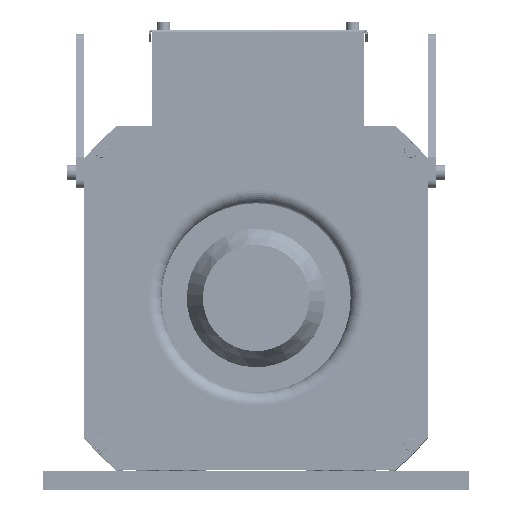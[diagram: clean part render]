
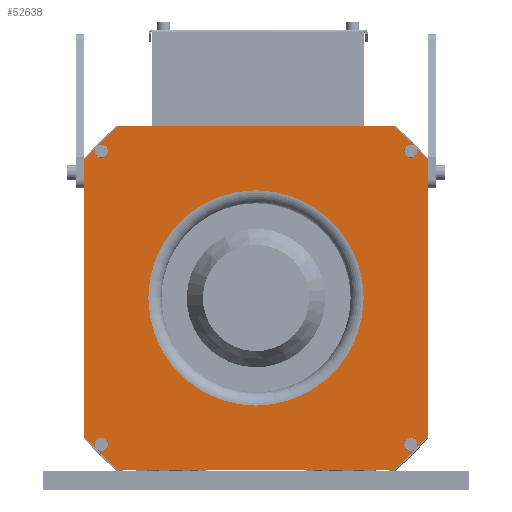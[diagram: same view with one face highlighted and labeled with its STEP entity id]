
A CAD part, top view. The second image highlights one B-rep face of the part: STEP entity #52638.
In plain terms, the highlighted planar face has unit normal (0, 0, 1) as drawn and (-1, 0, 0) by its records, which use the part's own axes.
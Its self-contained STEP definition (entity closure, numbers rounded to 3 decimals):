
#2094 = CARTESIAN_POINT ( 'NONE',  ( 0., 112., -90. ) ) ;
#2127 = DIRECTION ( 'NONE',  ( 0., 0., -1. ) ) ;
#2452 = CARTESIAN_POINT ( 'NONE',  ( 0., 155., -112. ) ) ;
#2809 = FACE_BOUND ( 'NONE', #34604, .T. ) ;
#2938 = VERTEX_POINT ( 'NONE', #111156 ) ;
#3933 = ORIENTED_EDGE ( 'NONE', *, *, #67642, .F. ) ;
#9075 = LINE ( 'NONE', #103975, #99518 ) ;
#9110 = LINE ( 'NONE', #58994, #57012 ) ;
#9602 = VERTEX_POINT ( 'NONE', #56330 ) ;
#11826 = EDGE_CURVE ( 'NONE', #40813, #26604, #18975, .T. ) ;
#12693 = LINE ( 'NONE', #2452, #102549 ) ;
#16789 = AXIS2_PLACEMENT_3D ( 'NONE', #63078, #20753, #51483 ) ;
#18975 = LINE ( 'NONE', #92069, #110919 ) ;
#20753 = DIRECTION ( 'NONE',  ( -1., 0., 0. ) ) ;
#23273 = EDGE_CURVE ( 'NONE', #76760, #40813, #9110, .T. ) ;
#23344 = CIRCLE ( 'NONE', #16789, 70. ) ;
#25594 = VERTEX_POINT ( 'NONE', #48344 ) ;
#26230 = ORIENTED_EDGE ( 'NONE', *, *, #124694, .F. ) ;
#26604 = VERTEX_POINT ( 'NONE', #118594 ) ;
#27553 = CARTESIAN_POINT ( 'NONE',  ( 0., -112., -90. ) ) ;
#30322 = AXIS2_PLACEMENT_3D ( 'NONE', #40223, #94806, #133828 ) ;
#31872 = DIRECTION ( 'NONE',  ( 0., 1., 0. ) ) ;
#34260 = DIRECTION ( 'NONE',  ( 1., 0., 0. ) ) ;
#34604 = EDGE_LOOP ( 'NONE', ( #130675, #117939 ) ) ;
#37905 = VERTEX_POINT ( 'NONE', #128066 ) ;
#39441 = VERTEX_POINT ( 'NONE', #50109 ) ;
#40143 = DIRECTION ( 'NONE',  ( 0., -0.707, 0.707 ) ) ;
#40223 = CARTESIAN_POINT ( 'NONE',  ( 0., 0., 0. ) ) ;
#40813 = VERTEX_POINT ( 'NONE', #90345 ) ;
#45825 = PLANE ( 'NONE',  #91076 ) ;
#47262 = CARTESIAN_POINT ( 'NONE',  ( 0., -112., 90. ) ) ;
#48344 = CARTESIAN_POINT ( 'NONE',  ( 0., -112., 90. ) ) ;
#49422 = DIRECTION ( 'NONE',  ( 0., 0., 1. ) ) ;
#50109 = CARTESIAN_POINT ( 'NONE',  ( 0., 0., 70. ) ) ;
#50113 = EDGE_LOOP ( 'NONE', ( #26230, #118303, #82341, #3933, #126524, #69642, #82223, #126089 ) ) ;
#50135 = VECTOR ( 'NONE', #52491, 1000. ) ;
#51483 = DIRECTION ( 'NONE',  ( 0., 0., 1. ) ) ;
#52491 = DIRECTION ( 'NONE',  ( 0., -1., 0. ) ) ;
#52638 = ADVANCED_FACE ( 'NONE', ( #2809, #118914 ), #45825, .F. ) ;
#54351 = VECTOR ( 'NONE', #95632, 1000. ) ;
#54720 = EDGE_CURVE ( 'NONE', #80484, #105975, #72480, .T. ) ;
#55983 = EDGE_CURVE ( 'NONE', #37905, #39441, #113174, .T. ) ;
#56330 = CARTESIAN_POINT ( 'NONE',  ( 0., -90., 112. ) ) ;
#57012 = VECTOR ( 'NONE', #49422, 1000. ) ;
#57498 = LINE ( 'NONE', #47262, #113359 ) ;
#57761 = LINE ( 'NONE', #80972, #59685 ) ;
#58043 = EDGE_CURVE ( 'NONE', #105975, #2938, #12693, .T. ) ;
#58994 = CARTESIAN_POINT ( 'NONE',  ( 0., 112., 0. ) ) ;
#59685 = VECTOR ( 'NONE', #99448, 1000. ) ;
#63078 = CARTESIAN_POINT ( 'NONE',  ( 0., 0., 0. ) ) ;
#65573 = CARTESIAN_POINT ( 'NONE',  ( 0., -90., -112. ) ) ;
#67642 = EDGE_CURVE ( 'NONE', #2938, #76760, #9075, .T. ) ;
#69642 = ORIENTED_EDGE ( 'NONE', *, *, #54720, .F. ) ;
#72480 = LINE ( 'NONE', #65573, #54351 ) ;
#76760 = VERTEX_POINT ( 'NONE', #2094 ) ;
#80484 = VERTEX_POINT ( 'NONE', #27553 ) ;
#80972 = CARTESIAN_POINT ( 'NONE',  ( 0., -112., 0. ) ) ;
#82223 = ORIENTED_EDGE ( 'NONE', *, *, #131339, .F. ) ;
#82341 = ORIENTED_EDGE ( 'NONE', *, *, #23273, .F. ) ;
#83921 = CARTESIAN_POINT ( 'NONE',  ( 0., 155., 112. ) ) ;
#85979 = EDGE_CURVE ( 'NONE', #39441, #37905, #23344, .T. ) ;
#90345 = CARTESIAN_POINT ( 'NONE',  ( 0., 112., 90. ) ) ;
#91076 = AXIS2_PLACEMENT_3D ( 'NONE', #95714, #34260, #2127 ) ;
#92069 = CARTESIAN_POINT ( 'NONE',  ( 0., 90., 112. ) ) ;
#93802 = EDGE_CURVE ( 'NONE', #9602, #25594, #57498, .T. ) ;
#94806 = DIRECTION ( 'NONE',  ( -1., 0., 0. ) ) ;
#95632 = DIRECTION ( 'NONE',  ( 0., 0.707, -0.707 ) ) ;
#95714 = CARTESIAN_POINT ( 'NONE',  ( 0., 155., 0. ) ) ;
#99448 = DIRECTION ( 'NONE',  ( 0., 0., -1. ) ) ;
#99518 = VECTOR ( 'NONE', #112231, 1000. ) ;
#102549 = VECTOR ( 'NONE', #31872, 1000. ) ;
#103975 = CARTESIAN_POINT ( 'NONE',  ( 0., 112., -90. ) ) ;
#105975 = VERTEX_POINT ( 'NONE', #121072 ) ;
#110919 = VECTOR ( 'NONE', #40143, 1000. ) ;
#111156 = CARTESIAN_POINT ( 'NONE',  ( 0., 90., -112. ) ) ;
#112231 = DIRECTION ( 'NONE',  ( 0., 0.707, 0.707 ) ) ;
#113174 = CIRCLE ( 'NONE', #30322, 70. ) ;
#113359 = VECTOR ( 'NONE', #132638, 1000. ) ;
#114681 = LINE ( 'NONE', #83921, #50135 ) ;
#117939 = ORIENTED_EDGE ( 'NONE', *, *, #55983, .F. ) ;
#118303 = ORIENTED_EDGE ( 'NONE', *, *, #11826, .F. ) ;
#118594 = CARTESIAN_POINT ( 'NONE',  ( 0., 90., 112. ) ) ;
#118914 = FACE_OUTER_BOUND ( 'NONE', #50113, .T. ) ;
#121072 = CARTESIAN_POINT ( 'NONE',  ( 0., -90., -112. ) ) ;
#124694 = EDGE_CURVE ( 'NONE', #26604, #9602, #114681, .T. ) ;
#126089 = ORIENTED_EDGE ( 'NONE', *, *, #93802, .F. ) ;
#126524 = ORIENTED_EDGE ( 'NONE', *, *, #58043, .F. ) ;
#128066 = CARTESIAN_POINT ( 'NONE',  ( 0., 0., -70. ) ) ;
#130675 = ORIENTED_EDGE ( 'NONE', *, *, #85979, .F. ) ;
#131339 = EDGE_CURVE ( 'NONE', #25594, #80484, #57761, .T. ) ;
#132638 = DIRECTION ( 'NONE',  ( 0., -0.707, -0.707 ) ) ;
#133828 = DIRECTION ( 'NONE',  ( 0., 0., 1. ) ) ;
